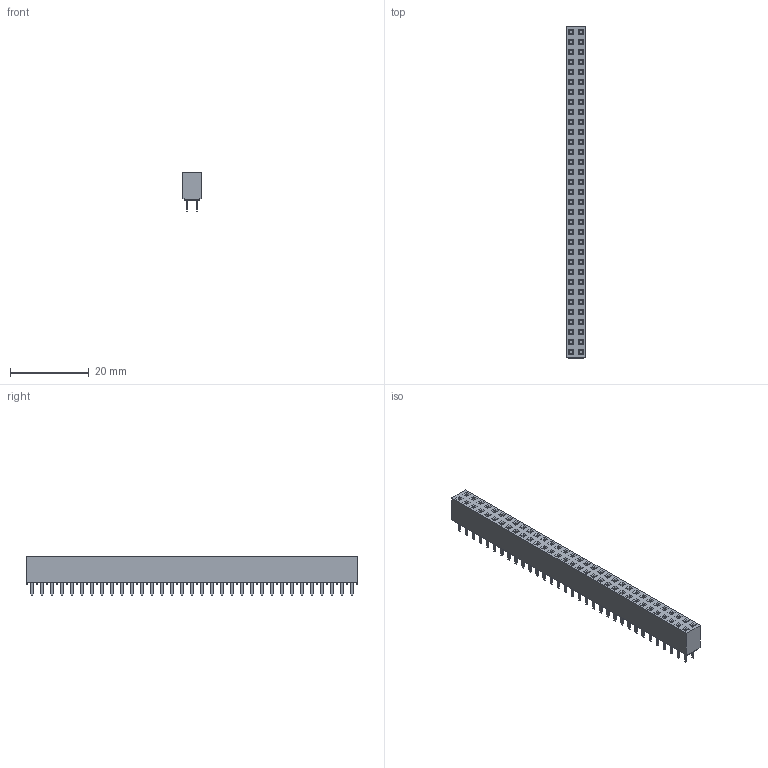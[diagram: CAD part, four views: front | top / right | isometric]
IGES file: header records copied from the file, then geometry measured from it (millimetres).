
Global section: file name: N:\GOLF_VI_2_54mm_UGII\960XXX-6X0X-XX (TS-2187)\960266-6202-XX.igs; native system: NX V3.0; preprocessor: UGS NX IGES V4.0; date: 20070618.080326; units: millimetre
Bounding box: 5 x 84.32 x 10.1 mm (x, y, z)
Surface area: 3229.3 mm2 (no closed solid volume)
Topology: 0 solids, 0 shells, 1298 faces, 6264 edges, 6264 vertices
Faces by surface type: bspline 1298
